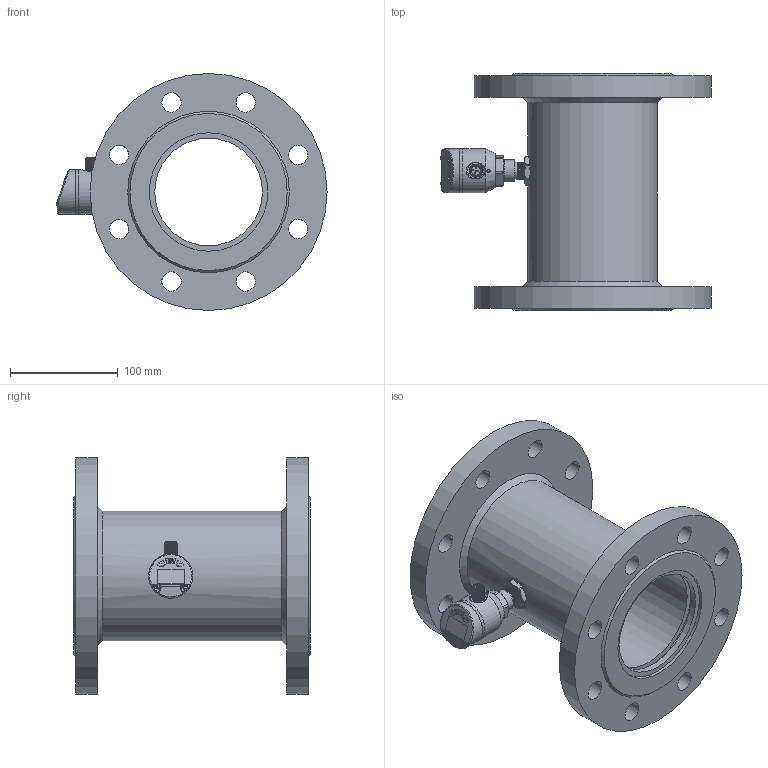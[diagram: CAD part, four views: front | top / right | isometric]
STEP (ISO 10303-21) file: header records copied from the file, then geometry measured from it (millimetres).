
FILE_DESCRIPTION( (''), '2;1');
FILE_NAME( 'QTKA_DN100_flange.step', '2024-01-11T13:52:14+08:00', (''), (''), '', '', '');
FILE_SCHEMA (('AUTOMOTIVE_DESIGN { 1 0 10303 214 3 1 1 1 }'));
Length unit declared in the file: millimetre
Products named in the file (1): QTKA DN100_flange
Bounding box: 250.8 x 220 x 220 mm (x, y, z)
Volume: 1786945.1 mm3; surface area: 317876.4 mm2
Topology: 5 solids, 7 shells, 450 faces, 1098 edges, 705 vertices
Faces by surface type: cylinder 158, plane 155, cone 50, bspline 42, torus 39, sphere 6
Full cylindrical faces by diameter (mm): 1 x5, 2.7 x4, 8.4 x1, 9.7 x1, 9.8 x1, 10.1 x1, 11.6 x1, 12 x1, 15.9 x1, 16.5 x1, 18 x16, 20 x1, 23 x3, 26 x4, 26.1 x1, 37 x1, 41 x3, 100 x3, 110 x4, 120 x1, 220 x2
Entity records: 29089 total; most frequent: CARTESIAN_POINT 17741, DIRECTION 2012, ORIENTED_EDGE 1922, EDGE_CURVE 961, AXIS2_PLACEMENT_3D 819, VERTEX_POINT 648, EDGE_LOOP 611, ADVANCED_FACE 448
